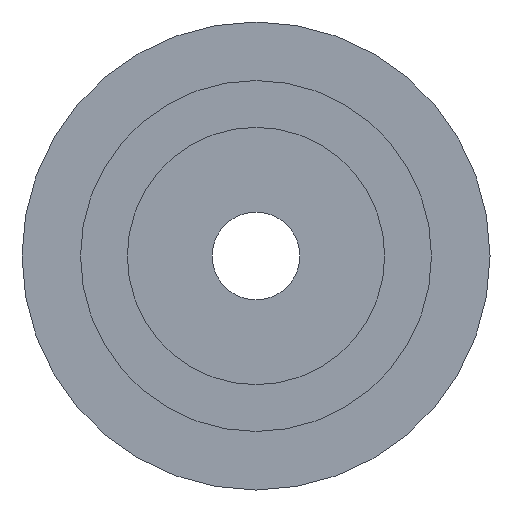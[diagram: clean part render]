
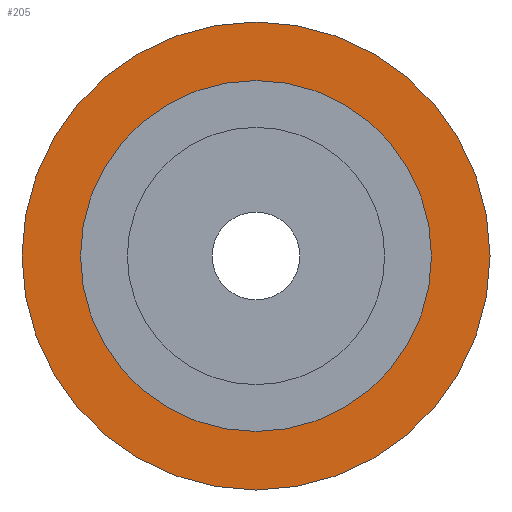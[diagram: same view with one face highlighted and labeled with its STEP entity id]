
A CAD part, left-side view. The second image highlights one B-rep face of the part: STEP entity #205.
In plain terms, the highlighted planar face has unit normal (-1, 0, 0).
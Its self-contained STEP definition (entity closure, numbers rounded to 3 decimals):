
#40=FACE_BOUND('',#72,.T.);
#52=FACE_OUTER_BOUND('',#71,.T.);
#71=EDGE_LOOP('',(#164));
#72=EDGE_LOOP('',(#165));
#90=CIRCLE('',#237,160.);
#94=CIRCLE('',#244,120.);
#106=VERTEX_POINT('',#350);
#110=VERTEX_POINT('',#363);
#124=EDGE_CURVE('',#106,#106,#90,.T.);
#130=EDGE_CURVE('',#110,#110,#94,.T.);
#164=ORIENTED_EDGE('',*,*,#124,.F.);
#165=ORIENTED_EDGE('',*,*,#130,.T.);
#193=PLANE('',#245);
#205=ADVANCED_FACE('',(#52,#40),#193,.T.);
#237=AXIS2_PLACEMENT_3D('',#352,#282,#283);
#244=AXIS2_PLACEMENT_3D('',#365,#298,#299);
#245=AXIS2_PLACEMENT_3D('',#366,#300,#301);
#282=DIRECTION('center_axis',(1.,0.,0.));
#283=DIRECTION('ref_axis',(0.,0.,-1.));
#298=DIRECTION('center_axis',(1.,0.,0.));
#299=DIRECTION('ref_axis',(0.,0.,-1.));
#300=DIRECTION('center_axis',(-1.,0.,0.));
#301=DIRECTION('ref_axis',(0.,0.,1.));
#350=CARTESIAN_POINT('',(-50.,-160.,0.));
#352=CARTESIAN_POINT('Origin',(-50.,0.,0.));
#363=CARTESIAN_POINT('',(-50.,-120.,0.));
#365=CARTESIAN_POINT('Origin',(-50.,0.,0.));
#366=CARTESIAN_POINT('Origin',(-50.,160.,0.));
